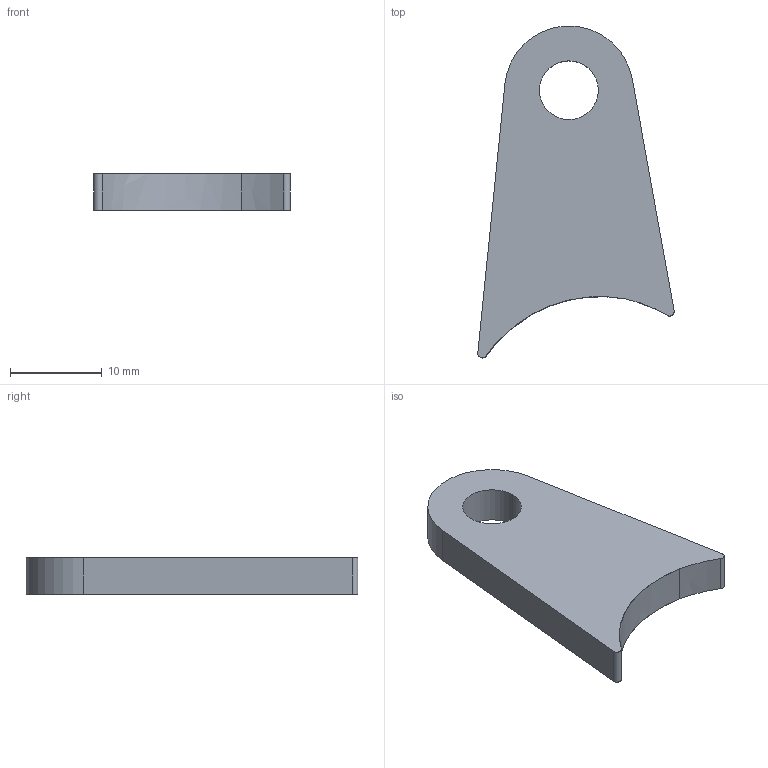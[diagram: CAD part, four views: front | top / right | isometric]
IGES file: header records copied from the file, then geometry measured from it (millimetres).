
Start section: START RECORD GO HERE.
Global section: file name: 20M_FU_RU.igs; native system: IBM CATIA IGES - CATIA Version 5 Release 19 ; preprocessor: CATIA Version 5 Release 19 ; author: alexb; organization: LAPTOP-PR6NE7IP; date: 20191216.212744; units: millimetre
Bounding box: 21.37 x 36.13 x 4 mm (x, y, z)
Surface area: 1414.9 mm2 (no closed solid volume)
Topology: 0 solids, 0 shells, 12 faces, 60 edges, 64 vertices
Faces by surface type: revolution 6, plane 4, extrusion 2
